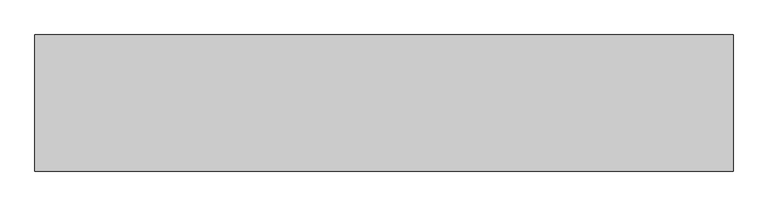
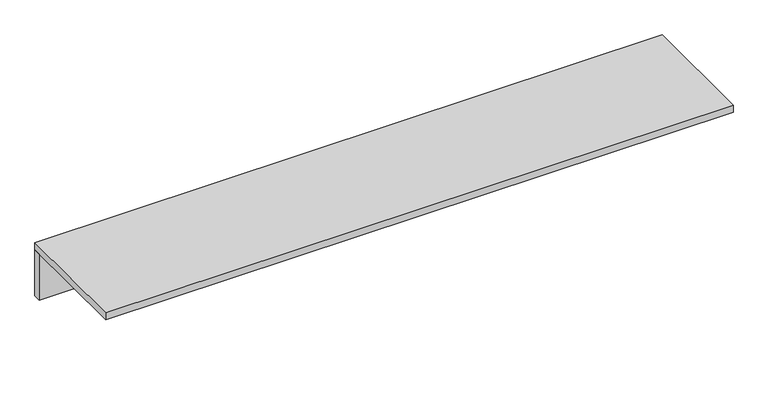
"""IFC4 building model written with IfcOpenShell, lengths in millimetres: furniture geometry."""

from ifc_helpers import new_model, si_unit, frame, origin, place, context, project, spatial, polyline, outline, extrude, source, transform, mapped, element, save


def furniture_2651c101(model_context):
    return source(origin(), model_context, "Body", "SweptSolid", [
        extrude(outline(polyline([(1066.8, 207.9625), (1066.8, 182.5625), (-1066.8, 182.5625), (-1066.8, 207.9625), (1066.8, 207.9625)])), frame((0.0, 0.0, 889.0), z_axis=(0.0, 0.0, 1.0), x_axis=(1.0, 0.0, 0.0)), (0.0, 0.0, 1.0), 165.1),
        extrude(outline(polyline([(1066.8, -207.9625), (-1066.8, -207.9625), (-1066.8, 207.9625), (1066.8, 207.9625), (1066.8, -207.9625)])), frame((0.0, 0.0, 1054.1), z_axis=(0.0, 0.0, 1.0), x_axis=(1.0, 0.0, 0.0)), (0.0, 0.0, 1.0), 25.4),
    ])


if __name__ == "__main__":
    model = new_model("IFC4")
    model_context = context("Model", 3, world=origin())
    ifc_project = project(units=[si_unit("LENGTHUNIT", "METRE", prefix="MILLI")], contexts=[model_context])
    site = spatial("IfcSite", under=ifc_project)
    building = spatial("IfcBuilding", under=site)
    placement = place(None, origin())
    furniture_shape = furniture_2651c101(model_context)
    element("IfcFurniture", 1, ObjectType="HermanMiller_Ethospace_E2830_SqEdgeCounterTop : 7-1/2\"H x 16-3/8\"D x 84\"W", at=placement, inside=building, context=model_context, shape_type="MappedRepresentation", body=[
        mapped(furniture_shape, transform((0.0, 0.0, 0.0), x_axis=(1.0, 0.0, 0.0), y_axis=(0.0, 1.0, 0.0), z_axis=(0.0, 0.0, 1.0))),
    ])
    save(model, "model.ifc")
